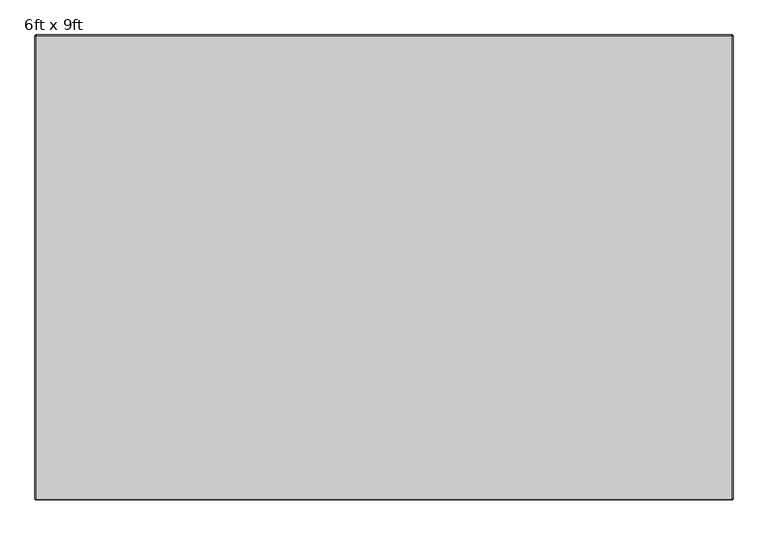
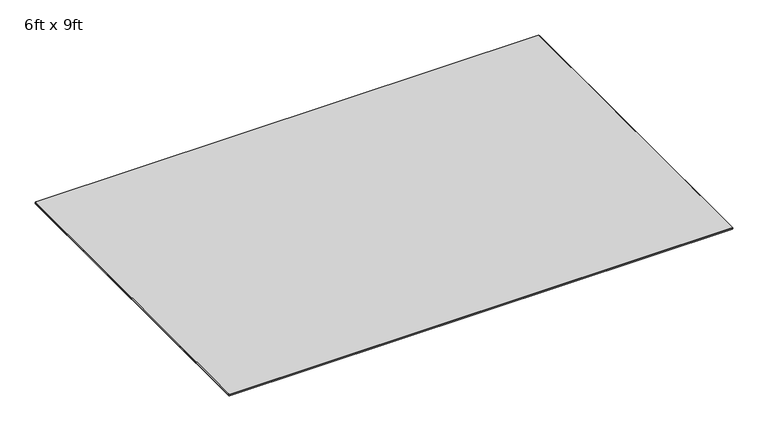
"""IFC4 building model written with IfcOpenShell, lengths in millimetres: furniture geometry, Coalesse_AM_Accessory_Rug_Nanimarquina_Basket : 6ft x 9ft."""

from ifc_helpers import new_model, si_unit, frame, origin, place, context, project, spatial, polyline, circle_curve, source, transform, mapped, element, save
from ifc_brep_helpers import plane_surface, cylinder_surface, revolved_surface, advanced_brep


def furniture_6ft_x_9ft_9712701d(model_context):
    return source(origin(), model_context, "Body", "AdvancedBrep", [
        advanced_brep(
        [(-658.8809829, 798.9249977, 6.9850002), (-661.4265124, 796.3794681, 6.9850002), (-661.4265124, -1022.2550023, 6.9850002), (-658.8865124, -1024.7950023, 6.9850002), (2074.1533713, -1024.7950023, 6.9850002), (2076.6933713, -1022.2550023, 6.9850002), (2076.6933713, 796.3849977, 6.9850002), (2074.1533713, 798.9249977, 6.9850002), (-663.9665124, 796.3794681, 0.0), (-658.8809829, 801.4649977, 0.0), (2074.1533713, 801.4649977, 0.0), (2079.2333713, 796.3849977, 0.0), (2079.2333713, -1022.2550023, 0.0), (2074.1533713, -1027.3350023, 0.0), (-658.8865124, -1027.3350023, 0.0), (-663.9665124, -1022.2550023, 0.0), (-663.9665124, 796.3794681, 4.4450002), (-658.8809829, 801.4649977, 4.4450002), (-663.9665124, -1022.2550023, 4.4450002), (-658.8865124, -1027.3350023, 4.4450002), (2074.1533713, -1027.3350023, 4.4450002), (2079.2333713, -1022.2550023, 4.4450002), (2079.2333713, 796.3849977, 4.4450002), (2074.1533713, 801.4649977, 4.4450002)],
        [
            (0, 1, circle_curve(frame((-658.8809829, 796.3794681, 6.9850002), z_axis=(0.0, 0.0, 1.0), x_axis=(0.0, 1.0, 0.0)), 2.5455296)),
            (1, 2),
            (2, 3, circle_curve(frame((-658.8865124, -1022.2550023, 6.9850002), z_axis=(0.0, 0.0, 1.0), x_axis=(-1.0, 0.0, 0.0)), 2.54)),
            (3, 4),
            (4, 5, circle_curve(frame((2074.1533713, -1022.2550023, 6.9850002), z_axis=(0.0, 0.0, 1.0), x_axis=(0.0, -1.0, 0.0)), 2.54)),
            (5, 6),
            (6, 7, circle_curve(frame((2074.1533713, 796.3849977, 6.9850002), z_axis=(0.0, 0.0, 1.0), x_axis=(1.0, 0.0, 0.0)), 2.54)),
            (7, 0),
            (8, 9, circle_curve(frame((-658.8809829, 796.3794681, 0.0), z_axis=(0.0, 0.0, -1.0), x_axis=(0.0, 1.0, 0.0)), 5.0855296)),
            (9, 10),
            (10, 11, circle_curve(frame((2074.1533713, 796.3849977, 0.0), z_axis=(0.0, 0.0, -1.0), x_axis=(1.0, 0.0, 0.0)), 5.08)),
            (11, 12),
            (12, 13, circle_curve(frame((2074.1533713, -1022.2550023, 0.0), z_axis=(0.0, 0.0, -1.0), x_axis=(0.0, -1.0, 0.0)), 5.08)),
            (13, 14),
            (14, 15, circle_curve(frame((-658.8865124, -1022.2550023, 0.0), z_axis=(0.0, 0.0, -1.0), x_axis=(-1.0, 0.0, 0.0)), 5.08)),
            (15, 8),
            (16, 17, circle_curve(frame((-658.8809829, 796.3794681, 4.4450002), z_axis=(0.0, 0.0, -1.0), x_axis=(0.0, 1.0, 0.0)), 5.0855296)),
            (17, 9),
            (8, 16),
            (16, 1),
            (0, 17),
            (15, 18),
            (18, 16),
            (18, 2),
            (14, 19),
            (19, 18, circle_curve(frame((-658.8865124, -1022.2550023, 4.4450002), z_axis=(0.0, 0.0, -1.0), x_axis=(-1.0, 0.0, 0.0)), 5.08)),
            (19, 3),
            (13, 20),
            (20, 19),
            (20, 4),
            (12, 21),
            (21, 20, circle_curve(frame((2074.1533713, -1022.2550023, 4.4450002), z_axis=(0.0, 0.0, -1.0), x_axis=(0.0, -1.0, 0.0)), 5.08)),
            (21, 5),
            (11, 22),
            (22, 21),
            (22, 6),
            (10, 23),
            (23, 22, circle_curve(frame((2074.1533713, 796.3849977, 4.4450002), z_axis=(0.0, 0.0, -1.0), x_axis=(1.0, 0.0, 0.0)), 5.08)),
            (23, 7),
            (17, 23),
        ],
        [
            plane_surface(frame((-658.8809829, 798.9249977, 6.9850002), z_axis=(0.0, 0.0, 1.0), x_axis=(-1.0, 0.0, 0.0))),
            plane_surface(frame((-658.8809829, 798.9249977, 0.0), z_axis=(0.0, 0.0, -1.0), x_axis=(1.0, 0.0, 0.0))),
            cylinder_surface(frame((-658.8809829, 796.3794681, 0.0), z_axis=(0.0, 0.0, 1.0), x_axis=(0.0, 1.0, 0.0)), 5.0855296),
            revolved_surface(polyline([(-658.8809829, 801.4649977, 4.4450002), (-658.8809829, 798.9249977, 6.9850002)]), (-658.8809829, 796.3794681, 0.0), (0.0, 0.0, 1.0)),
            plane_surface(frame((-663.9665124, 796.3794681, 0.0), z_axis=(-1.0, 0.0, 0.0), x_axis=(0.0, -1.0, 0.0))),
            plane_surface(frame((-663.9665124, 796.3794681, 4.4450002), z_axis=(-0.7071067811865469, 0.0, 0.7071067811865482), x_axis=(0.0, -1.0, 0.0))),
            cylinder_surface(frame((-658.8865124, -1022.2550023, 0.0), z_axis=(0.0, 0.0, 1.0), x_axis=(-1.0, 0.0, 0.0)), 5.08),
            revolved_surface(polyline([(-663.9665124, -1022.2550023, 4.4450002), (-661.4265124, -1022.2550023, 6.9850002)]), (-658.8865124, -1022.2550023, 0.0), (0.0, 0.0, 1.0)),
            plane_surface(frame((-658.8865124, -1027.3350023, 0.0), z_axis=(0.0, -1.0, 0.0), x_axis=(1.0, 0.0, 0.0))),
            plane_surface(frame((-658.8865124, -1027.3350023, 4.4450002), z_axis=(0.0, -0.7071067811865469, 0.7071067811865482), x_axis=(1.0, 0.0, 0.0))),
            cylinder_surface(frame((2074.1533713, -1022.2550023, 0.0), z_axis=(0.0, 0.0, 1.0), x_axis=(0.0, -1.0, 0.0)), 5.08),
            revolved_surface(polyline([(2074.1533713, -1027.3350023, 4.4450002), (2074.1533713, -1024.7950023, 6.9850002)]), (2074.1533713, -1022.2550023, 0.0), (0.0, 0.0, 1.0)),
            plane_surface(frame((2079.2333713, -1022.2550023, 0.0), z_axis=(1.0, 0.0, 0.0), x_axis=(0.0, 1.0, 0.0))),
            plane_surface(frame((2079.2333713, -1022.2550023, 4.4450002), z_axis=(0.7071067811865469, 0.0, 0.7071067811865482), x_axis=(0.0, 1.0, 0.0))),
            cylinder_surface(frame((2074.1533713, 796.3849977, 0.0), z_axis=(0.0, 0.0, 1.0), x_axis=(1.0, 0.0, 0.0)), 5.08),
            revolved_surface(polyline([(2079.2333713, 796.3849977, 4.4450002), (2076.6933713, 796.3849977, 6.9850002)]), (2074.1533713, 796.3849977, 0.0), (0.0, 0.0, 1.0)),
            plane_surface(frame((2074.1533713, 801.4649977, 0.0), z_axis=(0.0, 1.0, 0.0), x_axis=(-1.0, 0.0, 0.0))),
            plane_surface(frame((2074.1533713, 801.4649977, 4.4450002), z_axis=(0.0, 0.7071067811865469, 0.7071067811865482), x_axis=(-1.0, 0.0, 0.0))),
        ],
        [
            (0, [[1, 2, 3, 4, 5, 6, 7, 8]]),
            (1, [[9, 10, 11, 12, 13, 14, 15, 16]]),
            (2, [[17, 18, -9, 19]]),
            (3, [[-17, 20, -1, 21]]),
            (4, [[-19, -16, 22, 23]]),
            (5, [[-20, -23, 24, -2]]),
            (6, [[-22, -15, 25, 26]]),
            (7, [[-24, -26, 27, -3]]),
            (8, [[-25, -14, 28, 29]]),
            (9, [[-27, -29, 30, -4]]),
            (10, [[-28, -13, 31, 32]]),
            (11, [[-30, -32, 33, -5]]),
            (12, [[-31, -12, 34, 35]]),
            (13, [[-33, -35, 36, -6]]),
            (14, [[-34, -11, 37, 38]]),
            (15, [[-36, -38, 39, -7]]),
            (16, [[-18, 40, -37, -10]]),
            (17, [[-21, -8, -39, -40]]),
        ],
    ),
    ])


if __name__ == "__main__":
    model = new_model("IFC4")
    model_context = context("Model", 3, world=origin())
    ifc_project = project(units=[si_unit("LENGTHUNIT", "METRE", prefix="MILLI")], contexts=[model_context])
    site = spatial("IfcSite", under=ifc_project)
    building = spatial("IfcBuilding", under=site)
    placement = place(None, origin())
    furniture_6ft_x_9ft_shape = furniture_6ft_x_9ft_9712701d(model_context)
    element("IfcFurniture", 1, ObjectType="Coalesse_AM_Accessory_Rug_Nanimarquina_Basket : 6ft x 9ft", at=placement, inside=building, context=model_context, shape_type="MappedRepresentation", body=[
        mapped(furniture_6ft_x_9ft_shape, transform((0.0, 0.0, 0.0), x_axis=(1.0, 0.0, 0.0), y_axis=(0.0, 1.0, 0.0), z_axis=(0.0, 0.0, 1.0))),
    ])
    save(model, "model.ifc")
